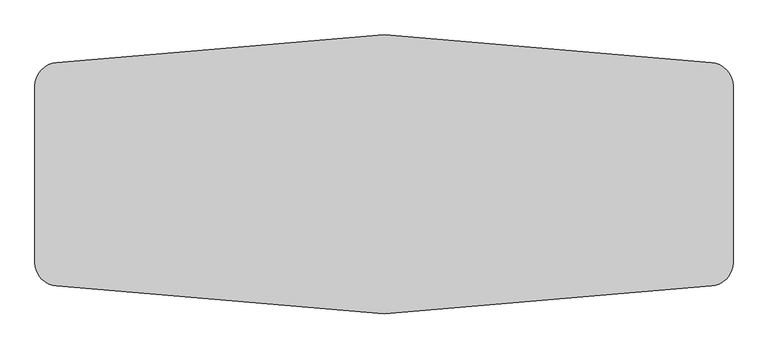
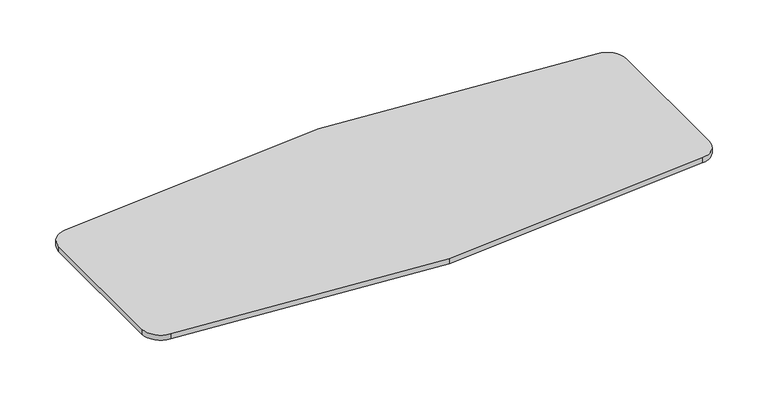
"""IFC4 building model written with IfcOpenShell, lengths in millimetres: furniture geometry, Steelcase - Answer Solution - Universal Table - Hex Conference : 48D x 120W."""

from ifc_helpers import new_model, si_unit, point, frame, frame_2d, origin, place, context, project, spatial, polyline, circle_curve, trimmed, segment, composite_curve, outline, extrude, source, transform, mapped, element, save


def furniture_5fa1d2bb(model_context):
    return source(origin(), model_context, "Body", "SweptSolid", [
        extrude(outline(composite_curve([segment(trimmed(circle_curve(frame_2d((98.425, -353.5314557)), 101.6), [point((-3.175, -353.5314557))], [point((92.789246, -252.0878838))], False, "CARTESIAN"), True, "CONTINUOUS"), segment(polyline([(92.789246, -252.0878838), (1520.825, -130.4192308), (2948.860754, -252.0878838)]), True, "CONTINUOUS"), segment(trimmed(circle_curve(frame_2d((2943.225, -353.5314557)), 101.6), [point((2948.860754, -252.0878838))], [point((3044.825, -353.5314557))], False, "CARTESIAN"), True, "CONTINUOUS"), segment(polyline([(3044.825, -353.5314557), (3044.825, -1126.5070059)]), True, "CONTINUOUS"), segment(trimmed(circle_curve(frame_2d((2943.225, -1126.5070059)), 101.6), [point((3044.825, -1126.5070059))], [point((2948.860754, -1227.9505778))], False, "CARTESIAN"), True, "CONTINUOUS"), segment(polyline([(2948.860754, -1227.9505778), (1520.825, -1349.6192308), (92.789246, -1227.9505778)]), True, "CONTINUOUS"), segment(trimmed(circle_curve(frame_2d((98.425, -1126.5070059)), 101.6), [point((92.789246, -1227.9505778))], [point((-3.175, -1126.5070059))], False, "CARTESIAN"), True, "CONTINUOUS"), segment(polyline([(-3.175, -1126.5070059), (-3.175, -353.5314557)]), True, "CONTINUOUS")], self_intersect=False)), frame((0.0, 0.0, 668.274), z_axis=(0.0, 0.0, 1.0), x_axis=(1.0, 0.0, 0.0)), (0.0, 0.0, 1.0), 28.575),
    ])


if __name__ == "__main__":
    model = new_model("IFC4")
    model_context = context("Model", 3, world=origin())
    ifc_project = project(units=[si_unit("LENGTHUNIT", "METRE", prefix="MILLI")], contexts=[model_context])
    site = spatial("IfcSite", under=ifc_project)
    building = spatial("IfcBuilding", under=site)
    placement = place(None, origin())
    furniture_shape = furniture_5fa1d2bb(model_context)
    element("IfcFurniture", 1, ObjectType="Steelcase - Answer Solution - Universal Table - Hex Conference : 48D x 120W", at=placement, inside=building, context=model_context, shape_type="MappedRepresentation", body=[
        mapped(furniture_shape, transform((0.0, 0.0, 0.0), x_axis=(1.0, 0.0, 0.0), y_axis=(0.0, 1.0, 0.0), z_axis=(0.0, 0.0, 1.0))),
    ])
    save(model, "model.ifc")
